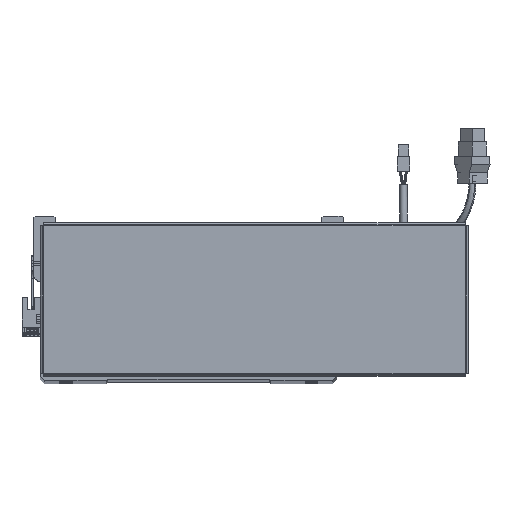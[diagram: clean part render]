
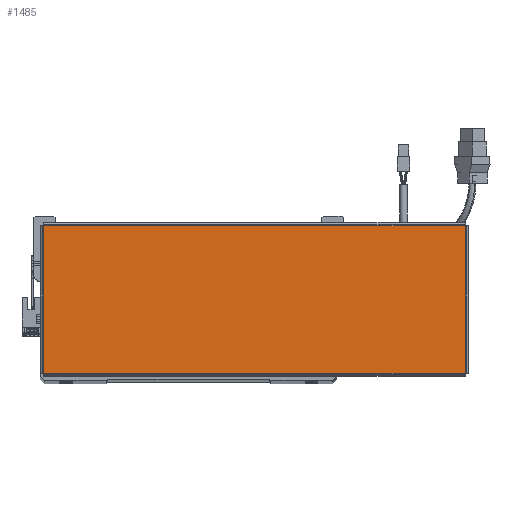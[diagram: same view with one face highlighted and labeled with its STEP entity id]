
A CAD part, top view. The second image highlights one B-rep face of the part: STEP entity #1485.
In plain terms, the highlighted planar face has unit normal (0, 0, 1).
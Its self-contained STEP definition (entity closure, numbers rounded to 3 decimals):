
#1485 = ADVANCED_FACE ( 'NONE', ( #11630 ), #14055, .T. ) ;
#5140 = AXIS2_PLACEMENT_3D ( 'NONE', #30923, #58559, #25403 ) ;
#5567 = LINE ( 'NONE', #46381, #16782 ) ;
#8846 = DIRECTION ( 'NONE',  ( 0., -1., 0. ) ) ;
#8960 = ORIENTED_EDGE ( 'NONE', *, *, #9399, .T. ) ;
#9399 = EDGE_CURVE ( 'NONE', #43251, #54590, #65161, .T. ) ;
#11630 = FACE_OUTER_BOUND ( 'NONE', #21677, .T. ) ;
#12781 = VERTEX_POINT ( 'NONE', #13435 ) ;
#13435 = CARTESIAN_POINT ( 'NONE',  ( -156.513, -54.763, 0. ) ) ;
#14055 = PLANE ( 'NONE',  #5140 ) ;
#15491 = CARTESIAN_POINT ( 'NONE',  ( 156.513, -54.793, 0. ) ) ;
#16782 = VECTOR ( 'NONE', #18678, 1000. ) ;
#18592 = VECTOR ( 'NONE', #45116, 1000. ) ;
#18654 = LINE ( 'NONE', #41663, #41973 ) ;
#18678 = DIRECTION ( 'NONE',  ( 1., 0., 0. ) ) ;
#20236 = CARTESIAN_POINT ( 'NONE',  ( 156.513, -54.763, 0. ) ) ;
#21677 = EDGE_LOOP ( 'NONE', ( #30669, #8960, #51655, #68414 ) ) ;
#22463 = CARTESIAN_POINT ( 'NONE',  ( 156.543, 54.763, 0. ) ) ;
#25403 = DIRECTION ( 'NONE',  ( 1., 0., 0. ) ) ;
#30669 = ORIENTED_EDGE ( 'NONE', *, *, #39215, .T. ) ;
#30923 = CARTESIAN_POINT ( 'NONE',  ( 0., 0., 0. ) ) ;
#32119 = DIRECTION ( 'NONE',  ( 0., 1., 0. ) ) ;
#33250 = LINE ( 'NONE', #22463, #18592 ) ;
#34782 = EDGE_CURVE ( 'NONE', #54590, #49982, #33250, .T. ) ;
#39215 = EDGE_CURVE ( 'NONE', #12781, #43251, #5567, .T. ) ;
#41663 = CARTESIAN_POINT ( 'NONE',  ( -156.513, 54.793, 0. ) ) ;
#41973 = VECTOR ( 'NONE', #8846, 1000. ) ;
#43251 = VERTEX_POINT ( 'NONE', #20236 ) ;
#45116 = DIRECTION ( 'NONE',  ( -1., 0., 0. ) ) ;
#46292 = CARTESIAN_POINT ( 'NONE',  ( 156.513, 54.763, 0. ) ) ;
#46381 = CARTESIAN_POINT ( 'NONE',  ( -156.543, -54.763, 0. ) ) ;
#49982 = VERTEX_POINT ( 'NONE', #69903 ) ;
#50357 = VECTOR ( 'NONE', #32119, 1000. ) ;
#51655 = ORIENTED_EDGE ( 'NONE', *, *, #34782, .T. ) ;
#54590 = VERTEX_POINT ( 'NONE', #46292 ) ;
#55036 = EDGE_CURVE ( 'NONE', #49982, #12781, #18654, .T. ) ;
#58559 = DIRECTION ( 'NONE',  ( 0., 0., 1. ) ) ;
#65161 = LINE ( 'NONE', #15491, #50357 ) ;
#68414 = ORIENTED_EDGE ( 'NONE', *, *, #55036, .T. ) ;
#69903 = CARTESIAN_POINT ( 'NONE',  ( -156.513, 54.763, 0. ) ) ;
